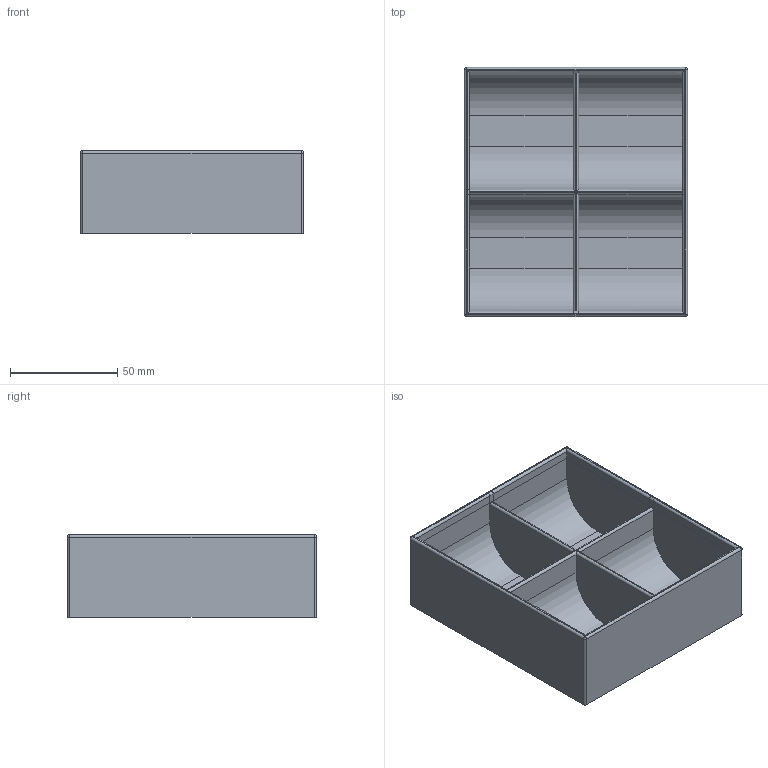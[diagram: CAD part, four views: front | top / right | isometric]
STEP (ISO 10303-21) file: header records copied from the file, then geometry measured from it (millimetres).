
FILE_DESCRIPTION(('Body'),'2;1');
FILE_NAME('Body','2026-09-07T17:08:19',('An Author'),('A Company'), 'Open CASCADE STEP processor 7.9','Dune 3D','Unknown');
FILE_SCHEMA(('AUTOMOTIVE_DESIGN { 1 0 10303 214 1 1 1 1 }'));
Length unit declared in the file: millimetre
Products named in the file (2): Energy Token Tray; Body
Assembly tree (1 placements, depth 2):
  Energy Token Tray
    Body
Bounding box: 104 x 116 x 38.5 mm (x, y, z)
Volume: 110423 mm3; surface area: 63708.9 mm2
Topology: 1 solids, 1 shells, 79 faces, 192 edges, 112 vertices
Faces by surface type: plane 39, cylinder 36, sphere 4
Entity records: 4811 total; most frequent: CARTESIAN_POINT 985, DIRECTION 720, LINE 432, VECTOR 432, ORIENTED_EDGE 376, PCURVE 376, DEFINITIONAL_REPRESENTATION 376, EDGE_CURVE 188
